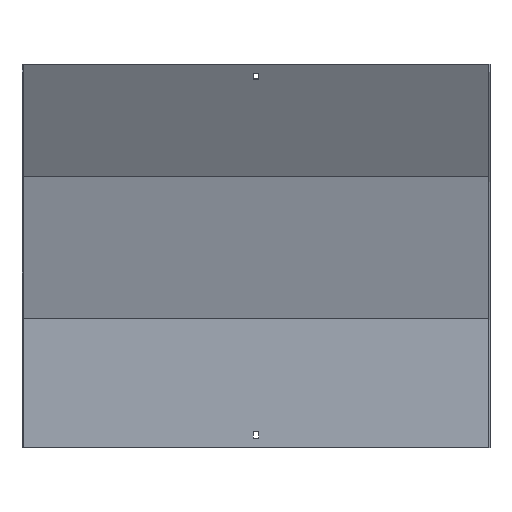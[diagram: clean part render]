
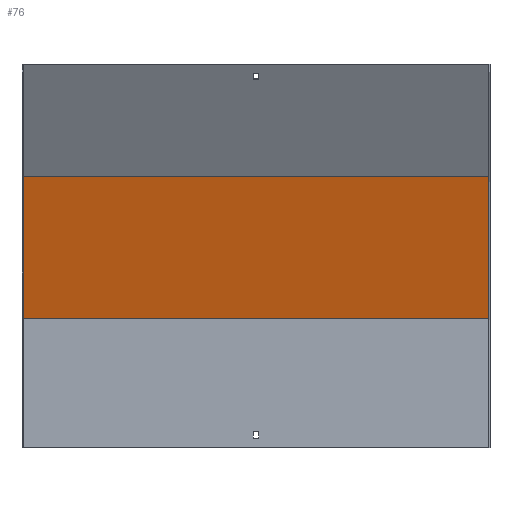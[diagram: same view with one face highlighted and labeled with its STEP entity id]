
A CAD part, front view. The second image highlights one B-rep face of the part: STEP entity #76.
In plain terms, the highlighted planar face has unit normal (0, -0.966, -0.259).
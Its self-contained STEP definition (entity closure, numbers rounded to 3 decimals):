
#29 = CARTESIAN_POINT ( 'NONE',  ( 301.5, -30.383, 348.871 ) ) ;
#38 = DIRECTION ( 'NONE',  ( 0., 0.259, -0.966 ) ) ;
#76 = ADVANCED_FACE ( 'NONE', ( #168 ), #702, .T. ) ;
#99 = VECTOR ( 'NONE', #688, 1000. ) ;
#104 = CARTESIAN_POINT ( 'NONE',  ( 301.5, 17.87, 168.788 ) ) ;
#149 = LINE ( 'NONE', #226, #99 ) ;
#168 = FACE_OUTER_BOUND ( 'NONE', #645, .T. ) ;
#206 = DIRECTION ( 'NONE',  ( -1., 0., 0. ) ) ;
#226 = CARTESIAN_POINT ( 'NONE',  ( 300., 58.87, 15.774 ) ) ;
#278 = EDGE_CURVE ( 'NONE', #839, #660, #346, .T. ) ;
#298 = ORIENTED_EDGE ( 'NONE', *, *, #624, .T. ) ;
#346 = LINE ( 'NONE', #490, #761 ) ;
#363 = ORIENTED_EDGE ( 'NONE', *, *, #802, .T. ) ;
#413 = CARTESIAN_POINT ( 'NONE',  ( -300., 58.87, 15.774 ) ) ;
#418 = LINE ( 'NONE', #413, #541 ) ;
#447 = CARTESIAN_POINT ( 'NONE',  ( -300., 18.5, 166.436 ) ) ;
#460 = VERTEX_POINT ( 'NONE', #811 ) ;
#466 = ORIENTED_EDGE ( 'NONE', *, *, #278, .F. ) ;
#489 = VERTEX_POINT ( 'NONE', #683 ) ;
#490 = CARTESIAN_POINT ( 'NONE',  ( 301.5, 18.5, 166.436 ) ) ;
#504 = EDGE_CURVE ( 'NONE', #660, #489, #418, .T. ) ;
#514 = ORIENTED_EDGE ( 'NONE', *, *, #504, .F. ) ;
#541 = VECTOR ( 'NONE', #687, 1000. ) ;
#549 = AXIS2_PLACEMENT_3D ( 'NONE', #104, #685, #38 ) ;
#624 = EDGE_CURVE ( 'NONE', #460, #489, #838, .T. ) ;
#644 = VECTOR ( 'NONE', #755, 1000. ) ;
#645 = EDGE_LOOP ( 'NONE', ( #514, #466, #363, #298 ) ) ;
#660 = VERTEX_POINT ( 'NONE', #447 ) ;
#683 = CARTESIAN_POINT ( 'NONE',  ( -300., -30.383, 348.871 ) ) ;
#685 = DIRECTION ( 'NONE',  ( 0., -0.966, -0.259 ) ) ;
#687 = DIRECTION ( 'NONE',  ( 0., -0.259, 0.966 ) ) ;
#688 = DIRECTION ( 'NONE',  ( 0., -0.259, 0.966 ) ) ;
#702 = PLANE ( 'NONE',  #549 ) ;
#743 = CARTESIAN_POINT ( 'NONE',  ( 300., 18.5, 166.436 ) ) ;
#755 = DIRECTION ( 'NONE',  ( -1., 0., 0. ) ) ;
#761 = VECTOR ( 'NONE', #206, 1000. ) ;
#802 = EDGE_CURVE ( 'NONE', #839, #460, #149, .T. ) ;
#811 = CARTESIAN_POINT ( 'NONE',  ( 300., -30.383, 348.871 ) ) ;
#838 = LINE ( 'NONE', #29, #644 ) ;
#839 = VERTEX_POINT ( 'NONE', #743 ) ;
